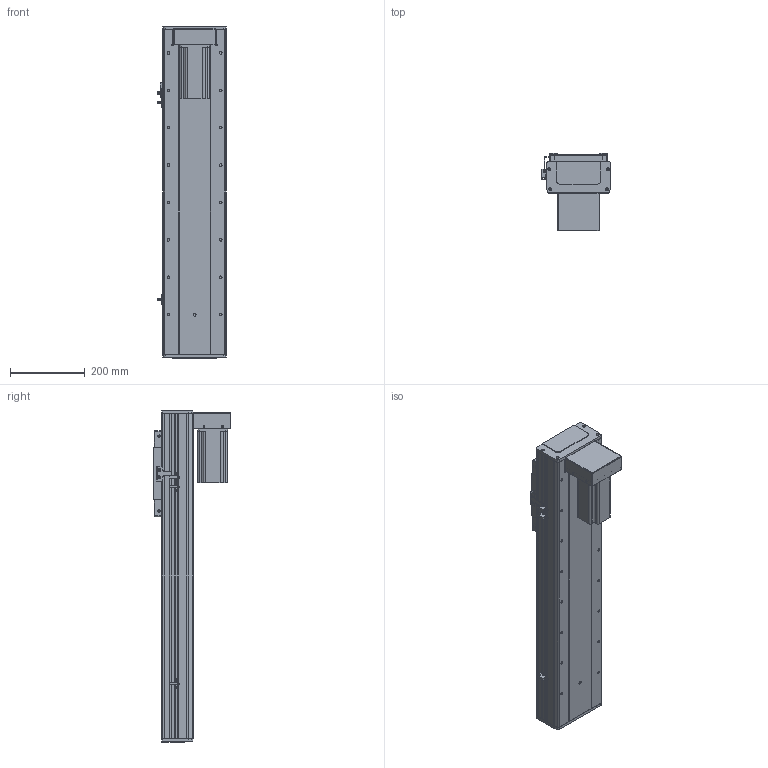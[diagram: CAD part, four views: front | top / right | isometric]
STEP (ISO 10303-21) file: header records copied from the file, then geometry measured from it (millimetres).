
FILE_DESCRIPTION (( 'STEP AP203' ), '1' );
FILE_NAME ('RY170F-L2010-300-BK.SLDASM_550.step', '2021-03-02T08:55:52', ( '盈信电脑' ), ( '东莞市道滘镇水果街19号' ), 'SwSTEP 2.0', 'SolidWorks 2012', '' );
FILE_SCHEMA (( 'CONFIG_CONTROL_DESIGN' ));
Length unit declared in the file: millimetre
Products named in the file (20): RY170F-L2010-300-BK.SLDASM_550; RY170狟殏詩湍假蚾輸; RY170F狟殏萇儂欶; 怢湛750W萇儂ㄗ80遺ㄘ; 滅袉蝶18-24; RY170F-狟殏萇儂假蚾啣(750W); 侐源滅袉蝶; RY170F-詩湍揤踡輸; RY170F俋离覜茼え; RY170F-揤踡謫假蚾粣; 覜茼ん672; RY100F-詩湍揤踡謫; 滅袉蝶18-10; RY170F-丝杆铝滑块连接板; RY170F-綴裔啣; RY170F-佪裝臏賑輸20蹟譫; RY170F-300眻蟀倰第菁釱-BK_550; RY170F-300眻蟀倰第奻裔啣-BK_550; RY170F-滅鳥奻裔; RY170F-300眻蟀祥凄詩湍-MK_550
Assembly tree (25 placements, depth 2):
  RY170F-L2010-300-BK.SLDASM_550
    RY170F-300眻蟀祥凄詩湍-MK_550
    RY170F-300眻蟀倰第奻裔啣-BK_550  x2
    RY170F-滅鳥奻裔
    RY170F-300眻蟀倰第菁釱-BK_550
    RY170F-佪裝臏賑輸20蹟譫
    RY170F-丝杆铝滑块连接板
    滅袉蝶18-10
    RY100F-詩湍揤踡謫
    RY170F-綴裔啣  x2
    覜茼ん672  x3
    RY170F俋离覜茼え
    RY170F-揤踡謫假蚾粣
    RY170F-詩湍揤踡輸  x2
    滅袉蝶18-24
    侐源滅袉蝶  x2
    RY170F-狟殏萇儂假蚾啣(750W)
    怢湛750W萇儂ㄗ80遺ㄘ
    RY170F狟殏萇儂欶
    RY170狟殏詩湍假蚾輸
Bounding box: 183.7 x 208 x 888 mm (x, y, z)
Volume: 5665265.7 mm3; surface area: 1805763.4 mm2
Topology: 25 solids, 25 shells, 1826 faces, 5053 edges, 3212 vertices
Faces by surface type: cylinder 864, plane 762, cone 196, bspline 4
Entity records: 50984 total; most frequent: CARTESIAN_POINT 10192, DIRECTION 8258, ORIENTED_EDGE 7870, EDGE_CURVE 3935, AXIS2_PLACEMENT_3D 2974, VERTEX_POINT 2568, VECTOR 2310, LINE 2310
